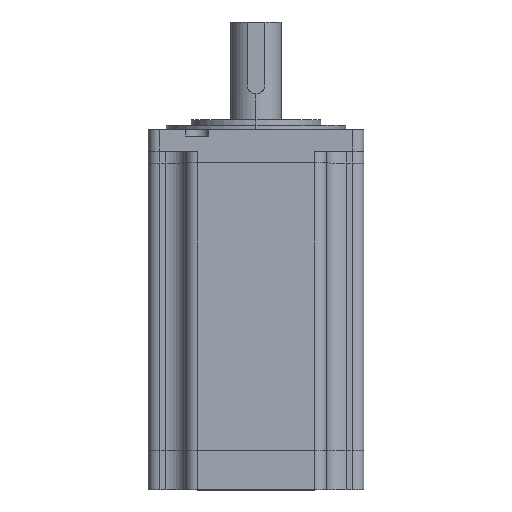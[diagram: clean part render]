
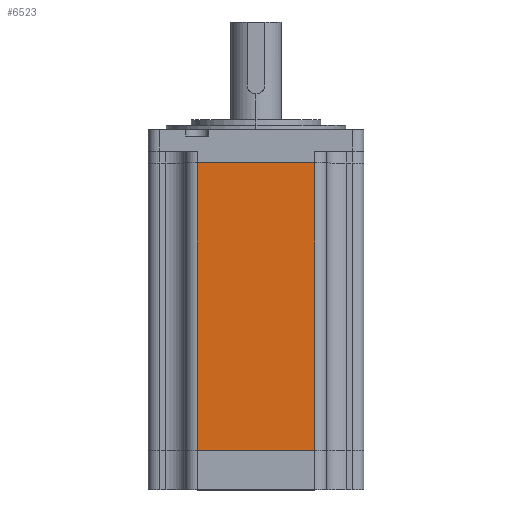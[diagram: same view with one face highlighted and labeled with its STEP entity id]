
A CAD part, top view. The second image highlights one B-rep face of the part: STEP entity #6523.
In plain terms, the highlighted planar face has unit normal (0, 0, 1).
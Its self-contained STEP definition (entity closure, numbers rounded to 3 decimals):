
#47 = LINE ( 'NONE', #3647, #7016 ) ;
#72 = DIRECTION ( 'NONE',  ( 0., -1., 0. ) ) ;
#379 = VECTOR ( 'NONE', #1602, 1000. ) ;
#581 = PLANE ( 'NONE',  #8278 ) ;
#647 = ORIENTED_EDGE ( 'NONE', *, *, #7205, .F. ) ;
#691 = CARTESIAN_POINT ( 'NONE',  ( 13.65, 80., 0. ) ) ;
#920 = CARTESIAN_POINT ( 'NONE',  ( 13.65, 80., 0. ) ) ;
#1002 = EDGE_CURVE ( 'NONE', #1672, #2880, #6498, .T. ) ;
#1208 = LINE ( 'NONE', #3418, #8194 ) ;
#1209 = VERTEX_POINT ( 'NONE', #7763 ) ;
#1251 = DIRECTION ( 'NONE',  ( 0., 0., -1. ) ) ;
#1537 = VERTEX_POINT ( 'NONE', #691 ) ;
#1602 = DIRECTION ( 'NONE',  ( 0., -1., 0. ) ) ;
#1672 = VERTEX_POINT ( 'NONE', #5253 ) ;
#2132 = CARTESIAN_POINT ( 'NONE',  ( 46.35, 0., 0. ) ) ;
#2158 = LINE ( 'NONE', #920, #379 ) ;
#2811 = EDGE_LOOP ( 'NONE', ( #4879, #6254, #647, #3072 ) ) ;
#2880 = VERTEX_POINT ( 'NONE', #2132 ) ;
#3072 = ORIENTED_EDGE ( 'NONE', *, *, #6864, .T. ) ;
#3418 = CARTESIAN_POINT ( 'NONE',  ( 46.35, 80., 0. ) ) ;
#3647 = CARTESIAN_POINT ( 'NONE',  ( 13.65, 80., 0. ) ) ;
#4879 = ORIENTED_EDGE ( 'NONE', *, *, #1002, .T. ) ;
#4894 = CARTESIAN_POINT ( 'NONE',  ( 13.65, 0., 0. ) ) ;
#5253 = CARTESIAN_POINT ( 'NONE',  ( 13.65, 0., 0. ) ) ;
#5307 = CARTESIAN_POINT ( 'NONE',  ( 13.65, 80., 0. ) ) ;
#5971 = DIRECTION ( 'NONE',  ( -1., 0., 0. ) ) ;
#6254 = ORIENTED_EDGE ( 'NONE', *, *, #8027, .F. ) ;
#6285 = VECTOR ( 'NONE', #8270, 1000. ) ;
#6369 = DIRECTION ( 'NONE',  ( 1., 0., 0. ) ) ;
#6498 = LINE ( 'NONE', #4894, #6285 ) ;
#6523 = ADVANCED_FACE ( 'NONE', ( #6708 ), #581, .F. ) ;
#6708 = FACE_OUTER_BOUND ( 'NONE', #2811, .T. ) ;
#6864 = EDGE_CURVE ( 'NONE', #1537, #1672, #2158, .T. ) ;
#7016 = VECTOR ( 'NONE', #6369, 1000. ) ;
#7205 = EDGE_CURVE ( 'NONE', #1537, #1209, #47, .T. ) ;
#7763 = CARTESIAN_POINT ( 'NONE',  ( 46.35, 80., 0. ) ) ;
#8027 = EDGE_CURVE ( 'NONE', #1209, #2880, #1208, .T. ) ;
#8194 = VECTOR ( 'NONE', #72, 1000. ) ;
#8270 = DIRECTION ( 'NONE',  ( 1., 0., 0. ) ) ;
#8278 = AXIS2_PLACEMENT_3D ( 'NONE', #5307, #1251, #5971 ) ;
